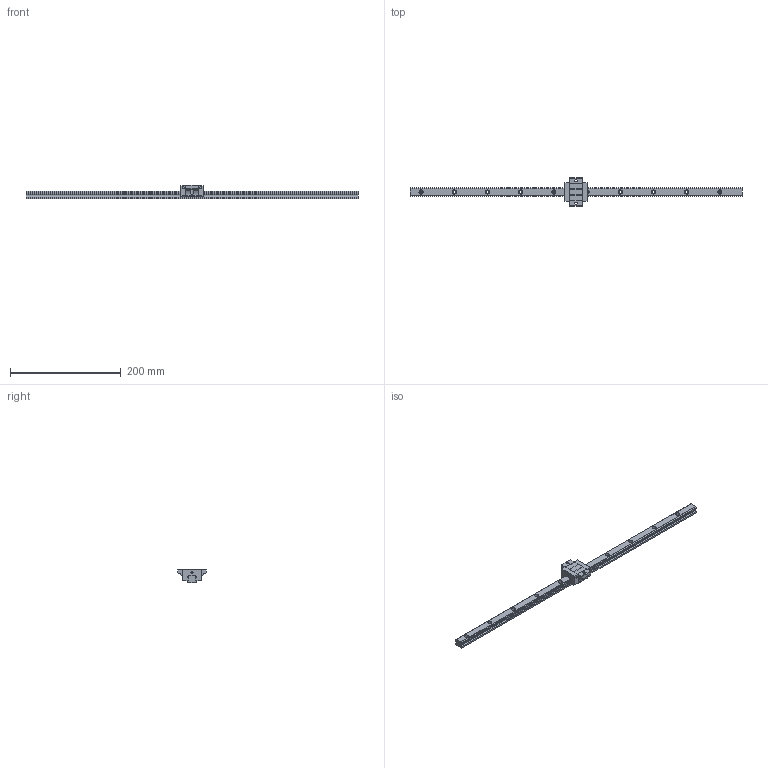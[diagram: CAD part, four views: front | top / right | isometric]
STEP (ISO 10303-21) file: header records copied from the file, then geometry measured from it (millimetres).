
FILE_DESCRIPTION (( 'STEP AP203' ), '1' );
FILE_NAME ('TRS15FS-XN.STEP', '2024-05-22T06:17:49', ( '' ), ( '' ), 'SwSTEP 2.0', 'SolidWorks 2022', '' );
FILE_SCHEMA (( 'CONFIG_CONTROL_DESIGN' ));
Length unit declared in the file: millimetre
Products named in the file (1): TRS15FS-XN
Bounding box: 600 x 52 x 24 mm (x, y, z)
Volume: 125940.1 mm3; surface area: 44863.4 mm2
Topology: 2 solids, 2 shells, 222 faces, 590 edges, 384 vertices
Faces by surface type: cylinder 116, plane 102, sphere 4
Entity records: 7291 total; most frequent: CARTESIAN_POINT 1503, DIRECTION 1226, ORIENTED_EDGE 1172, EDGE_CURVE 586, AXIS2_PLACEMENT_3D 437, VERTEX_POINT 384, LINE 352, VECTOR 352
